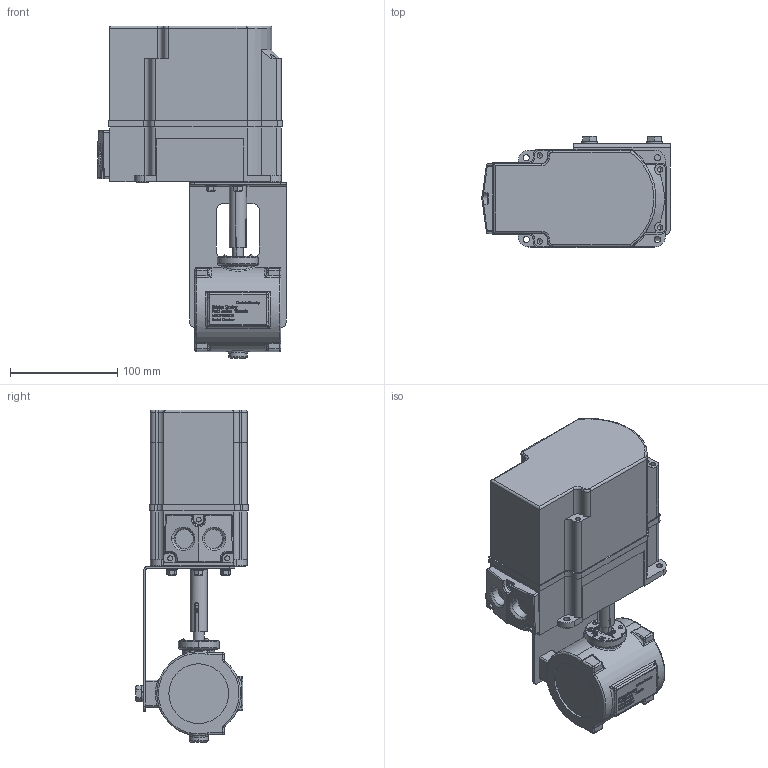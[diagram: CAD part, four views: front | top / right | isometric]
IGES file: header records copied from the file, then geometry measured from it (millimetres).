
Global section: file name: No Iges File Name specified; native system: AutoDesk Inventor R12.0; preprocessor: AutoDesk Inventor Iges Exporter R12.0; date: 20110328.093319; units: millimetre
Bounding box: 175.49 x 104.5 x 309 mm (x, y, z)
Volume: 2276523.8 mm3; surface area: 189813.7 mm2
Topology: 1 solids, 15 shells, 2864 faces, 7637 edges, 4955 vertices
Faces by surface type: plane 1486, bspline 1004, cylinder 189, revolution 89, cone 47, torus 35, sphere 14
Full cylindrical faces by diameter (mm): 9.2 x3, 14.8 x2
